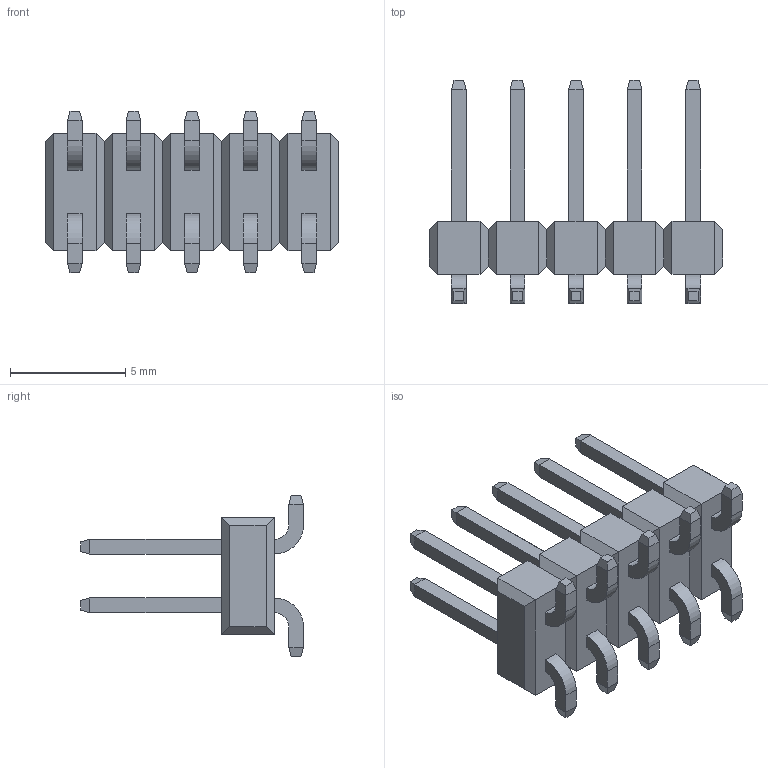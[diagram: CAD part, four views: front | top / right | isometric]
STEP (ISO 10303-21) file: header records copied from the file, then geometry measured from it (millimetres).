
FILE_DESCRIPTION (( 'STEP AP214' ), '1' );
FILE_NAME ('71308-5410.STEP', '2024-02-27T04:20:55', ( '' ), ( '' ), 'SwSTEP 2.0', 'SolidWorks 2021', '' );
FILE_SCHEMA (( 'AUTOMOTIVE_DESIGN' ));
Length unit declared in the file: millimetre
Products named in the file (3): 15912120_1_71308-5410; 15912120_71308-5410; 71308-5410
Assembly tree (6 placements, depth 2):
  71308-5410
    15912120_1_71308-5410
    15912120_71308-5410  x5
Bounding box: 12.7 x 9.66 x 7 mm (x, y, z)
Volume: 165.4 mm3; surface area: 500.3 mm2
Topology: 21 solids, 21 shells, 322 faces, 704 edges, 424 vertices
Faces by surface type: plane 302, cylinder 20
Entity records: 5283 total; most frequent: CARTESIAN_POINT 691, ORIENTED_EDGE 672, DIRECTION 654, EDGE_CURVE 336, LINE 328, VECTOR 328, VERTEX_POINT 200, EDGE_LOOP 166
